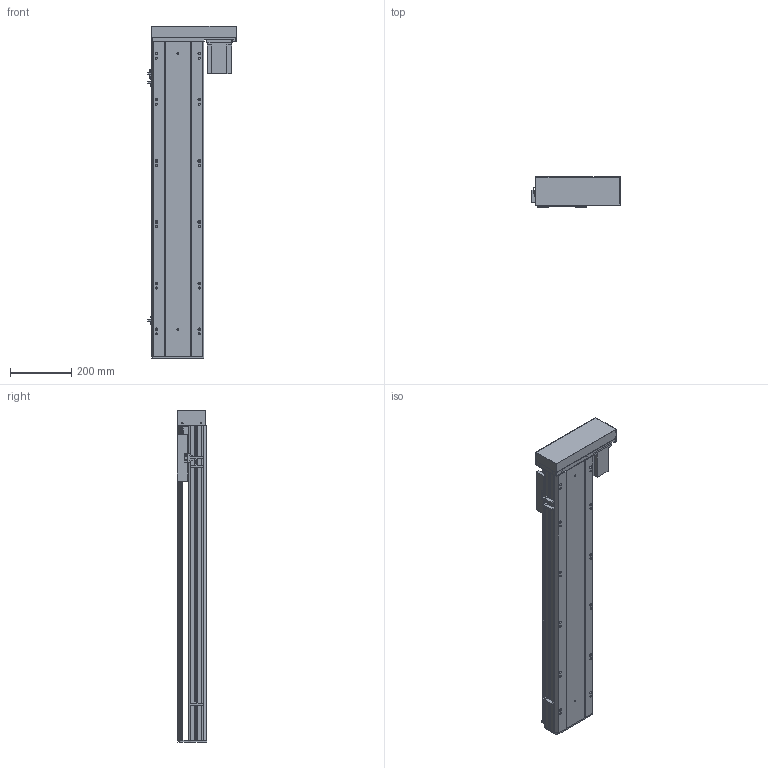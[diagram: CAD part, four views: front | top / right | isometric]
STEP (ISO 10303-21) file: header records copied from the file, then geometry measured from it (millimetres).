
FILE_DESCRIPTION (( 'STEP AP203' ), '1' );
FILE_NAME ('Y170-D10-S800-BR-P750W.STEP', '2020-01-21T12:25:57', ( '微软用户' ), ( '微软中国' ), 'SwSTEP 2.0', 'SolidWorks 2017', '' );
FILE_SCHEMA (( 'CONFIG_CONTROL_DESIGN' ));
Length unit declared in the file: millimetre
Products named in the file (12): Y雄赽釱-耜蚾; Y170-陔遴奻裔-BR; Y-BL.BR-俋欶; Y--BL蟀諉啣-陔遴-; Y170耜裔--準---; YD-Y100-135-新外置传感挡片(通用）; 170--掛极-BR; Y100-135俋离換覜ん; Y170-BL-P750W楊擘啣; Y170-D10-S800-BR-P750W; 侂狟750W; EGH20賑輸_蕼偞
Assembly tree (14 placements, depth 2):
  Y170-D10-S800-BR-P750W
    Y170耜裔--準---
    170--掛极-BR
    Y170-BL-P750W楊擘啣
    侂狟750W
    EGH20賑輸_蕼偞  x2
    Y雄赽釱-耜蚾
    Y170-陔遴奻裔-BR
    Y-BL.BR-俋欶
    Y--BL蟀諉啣-陔遴-
    YD-Y100-135-新外置传感挡片(通用）
    Y100-135俋离換覜ん  x3
Bounding box: 289 x 97 x 1083.5 mm (x, y, z)
Volume: 5338804.6 mm3; surface area: 1828891 mm2
Topology: 14 solids, 14 shells, 921 faces, 2594 edges, 1712 vertices
Faces by surface type: cylinder 462, plane 443, cone 16
Entity records: 29130 total; most frequent: CARTESIAN_POINT 5150, DIRECTION 4828, ORIENTED_EDGE 4684, EDGE_CURVE 2342, AXIS2_PLACEMENT_3D 1714, VERTEX_POINT 1556, LINE 1400, VECTOR 1400
